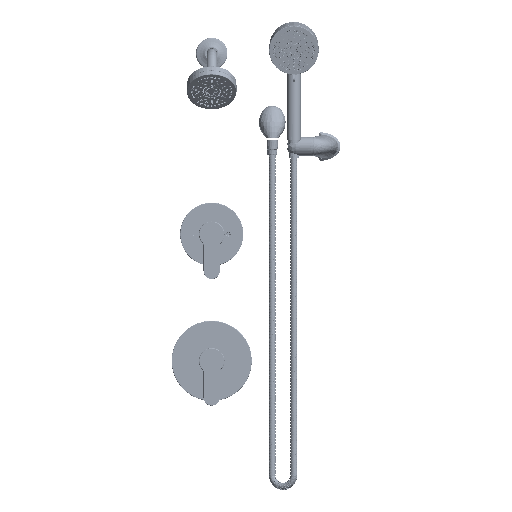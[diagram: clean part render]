
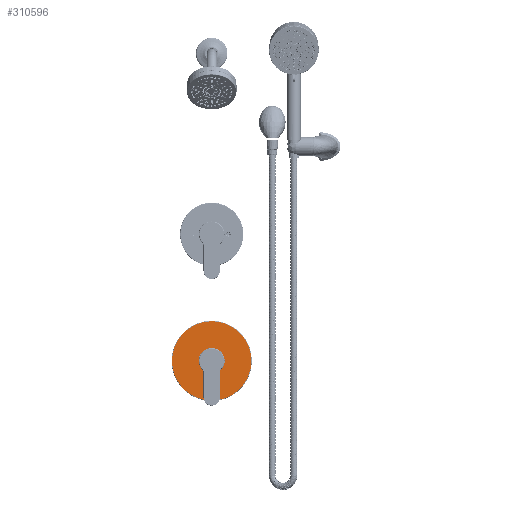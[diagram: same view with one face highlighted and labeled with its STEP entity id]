
A CAD part, top view. The second image highlights one B-rep face of the part: STEP entity #310596.
In plain terms, the highlighted planar face has unit normal (0, 0, 1).
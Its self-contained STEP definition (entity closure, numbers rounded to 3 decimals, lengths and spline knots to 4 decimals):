
#1126 = DIRECTION ( 'NONE',  ( 0., 0., 1. ) ) ;
#7065 = DIRECTION ( 'NONE',  ( 0., 0., 1. ) ) ;
#18515 = CIRCLE ( 'NONE', #319893, 3.1306 ) ;
#19660 = FACE_BOUND ( 'NONE', #343434, .T. ) ;
#25197 = EDGE_CURVE ( 'NONE', #318305, #188740, #171973, .T. ) ;
#30194 = DIRECTION ( 'NONE',  ( 1., 0., 0. ) ) ;
#31957 = CARTESIAN_POINT ( 'NONE',  ( 1.9687, -6.2675, 5.2986 ) ) ;
#34770 = EDGE_CURVE ( 'NONE', #137826, #85198, #145133, .T. ) ;
#40136 = EDGE_CURVE ( 'NONE', #188740, #318305, #112276, .T. ) ;
#57651 = AXIS2_PLACEMENT_3D ( 'NONE', #130356, #106668, #353646 ) ;
#58082 = EDGE_CURVE ( 'NONE', #85198, #137826, #18515, .T. ) ;
#62165 = CARTESIAN_POINT ( 'NONE',  ( 2.9942, -6.2675, 5.2986 ) ) ;
#63277 = AXIS2_PLACEMENT_3D ( 'NONE', #210344, #213914, #104934 ) ;
#85198 = VERTEX_POINT ( 'NONE', #335005 ) ;
#88782 = CARTESIAN_POINT ( 'NONE',  ( 1.9687, -6.2675, 5.2986 ) ) ;
#93820 = CARTESIAN_POINT ( 'NONE',  ( 5.0993, -6.2675, 5.2986 ) ) ;
#104934 = DIRECTION ( 'NONE',  ( 1., 0., 0. ) ) ;
#105010 = ORIENTED_EDGE ( 'NONE', *, *, #34770, .T. ) ;
#106668 = DIRECTION ( 'NONE',  ( 0., 0., 1. ) ) ;
#112276 = CIRCLE ( 'NONE', #146995, 1.0255 ) ;
#130356 = CARTESIAN_POINT ( 'NONE',  ( 1.9687, -6.2675, 5.2986 ) ) ;
#132138 = FACE_OUTER_BOUND ( 'NONE', #304972, .T. ) ;
#137826 = VERTEX_POINT ( 'NONE', #93820 ) ;
#145133 = CIRCLE ( 'NONE', #63277, 3.1306 ) ;
#146995 = AXIS2_PLACEMENT_3D ( 'NONE', #88782, #7065, #230323 ) ;
#154033 = PLANE ( 'NONE',  #57651 ) ;
#171973 = CIRCLE ( 'NONE', #264768, 1.0255 ) ;
#188740 = VERTEX_POINT ( 'NONE', #255624 ) ;
#210344 = CARTESIAN_POINT ( 'NONE',  ( 1.9687, -6.2675, 5.2986 ) ) ;
#213914 = DIRECTION ( 'NONE',  ( 0., 0., 1. ) ) ;
#219940 = CARTESIAN_POINT ( 'NONE',  ( 1.9687, -6.2675, 5.2986 ) ) ;
#230323 = DIRECTION ( 'NONE',  ( 1., 0., 0. ) ) ;
#255624 = CARTESIAN_POINT ( 'NONE',  ( 0.9432, -6.2675, 5.2986 ) ) ;
#264768 = AXIS2_PLACEMENT_3D ( 'NONE', #31957, #1126, #30194 ) ;
#265761 = ORIENTED_EDGE ( 'NONE', *, *, #58082, .T. ) ;
#304972 = EDGE_LOOP ( 'NONE', ( #105010, #265761 ) ) ;
#305035 = ORIENTED_EDGE ( 'NONE', *, *, #40136, .F. ) ;
#310596 = ADVANCED_FACE ( 'NONE', ( #132138, #19660 ), #154033, .T. ) ;
#318305 = VERTEX_POINT ( 'NONE', #62165 ) ;
#318651 = DIRECTION ( 'NONE',  ( 0., 0., 1. ) ) ;
#319893 = AXIS2_PLACEMENT_3D ( 'NONE', #219940, #318651, #330718 ) ;
#330059 = ORIENTED_EDGE ( 'NONE', *, *, #25197, .F. ) ;
#330718 = DIRECTION ( 'NONE',  ( 1., 0., 0. ) ) ;
#335005 = CARTESIAN_POINT ( 'NONE',  ( -1.162, -6.2675, 5.2986 ) ) ;
#343434 = EDGE_LOOP ( 'NONE', ( #330059, #305035 ) ) ;
#353646 = DIRECTION ( 'NONE',  ( 1., 0., 0. ) ) ;
